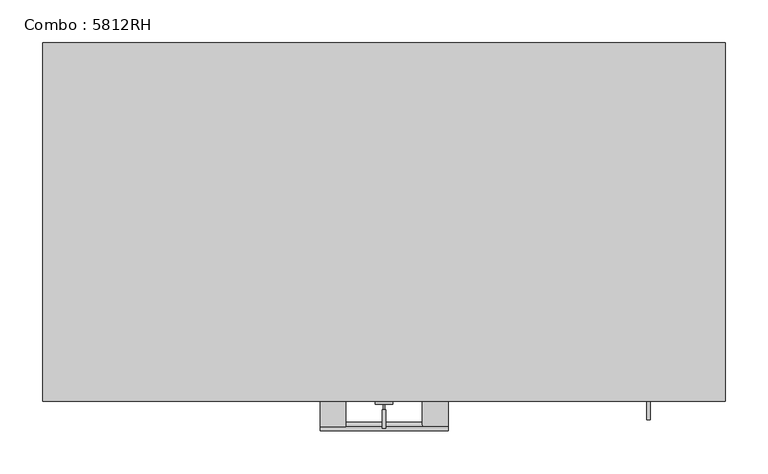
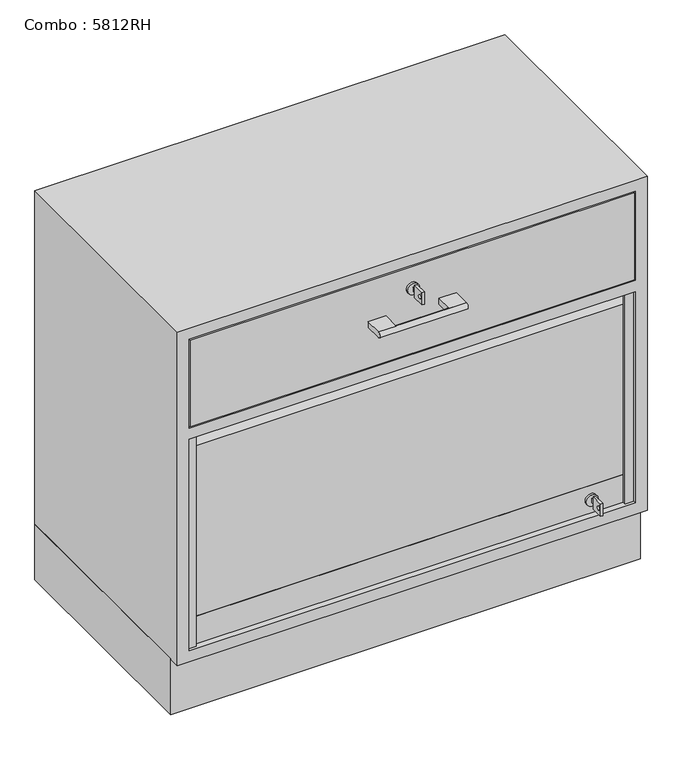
"""IFC4 building model written with IfcOpenShell, lengths in millimetres: furniture geometry, Combo : 5812RH."""

from ifc_helpers import new_model, si_unit, point, frame, frame_2d, origin, origin_with_axes, place, context, project, spatial, polyline, circle_curve, trimmed, segment, composite_curve, outline, extrude, faceted_brep, source, transform, mapped, element, save
from ifc_brep_helpers import plane_surface, cylinder_surface, advanced_brep


def combo_5812rh_d4502ce2(model_context):
    return source(origin(), model_context, "Body", "SolidModel", [
        extrude(outline(polyline([(-400.0, -400.0), (-400.0, 0.0), (400.0, 0.0), (400.0, -400.0), (-400.0, -400.0)])), origin_with_axes(), (0.0, 0.0, 1.0), 100.0),
        extrude(outline(composite_curve([segment(trimmed(circle_curve(frame_2d((640.0, 0.0)), 10.0), [point((640.0, -10.0))], [point((640.0, 10.0))], False, "CARTESIAN"), True, "CONTINUOUS"), segment(trimmed(circle_curve(frame_2d((640.0, 0.0)), 10.0), [point((640.0, 10.0))], [point((640.0, -10.0))], False, "CARTESIAN"), True, "CONTINUOUS")], self_intersect=False)), frame((0.0, -424.0, 0.0), z_axis=(0.0, 1.0, 0.0), x_axis=(0.0, 0.0, 1.0)), (0.0, 0.0, 1.0), 4.0),
        extrude(outline(polyline([(-452.0, 629.014113), (-452.0, 651.0), (-430.0, 651.0), (-430.0, 629.014113), (-452.0, 629.014113)]), holes=[composite_curve([segment(trimmed(circle_curve(frame_2d((-445.75, 640.0070565)), 3.2230706), [point((-445.75, 643.2301271))], [point((-445.75, 636.7839859))], True, "CARTESIAN"), True, "CONTINUOUS"), segment(trimmed(circle_curve(frame_2d((-445.75, 640.0070565)), 3.2230706), [point((-445.75, 636.7839859))], [point((-445.75, 643.2301271))], True, "CARTESIAN"), True, "CONTINUOUS")], self_intersect=False)]), frame((-2.0, 0.0, 0.0), z_axis=(1.0, 0.0, 0.0), x_axis=(0.0, 1.0, 0.0)), (0.0, 0.0, 1.0), 4.0416064),
        extrude(outline(polyline([(1.0416064, -430.0), (-1.0, -430.0), (-1.0, -424.0), (1.0416064, -424.0), (1.0416064, -430.0)])), frame((0.0, 0.0, 636.014113), z_axis=(0.0, 0.0, 1.0), x_axis=(1.0, 0.0, 0.0)), (0.0, 0.0, 1.0), 7.985887),
        advanced_brep(
        [(-75.0, -450.0, 605.0), (-75.0, -420.0, 605.0), (-75.0, -420.0, 595.0), (-75.0, -450.0, 595.0), (-45.0, -450.0, 595.0), (-45.0, -420.0, 595.0), (-45.0, -420.0, 605.0), (-45.0, -450.0, 605.0), (75.0, -450.0, 605.0), (75.0, -450.0, 595.0), (75.0, -420.0, 595.0), (75.0, -420.0, 605.0), (45.0, -450.0, 605.0), (45.0, -450.0, 595.0), (45.0, -420.0, 605.0), (45.0, -420.0, 595.0)],
        [
            (0, 1),
            (1, 2),
            (2, 3),
            (3, 0, circle_curve(frame((-75.0, -450.0, 600.0), z_axis=(-1.0, 0.0, 0.0), x_axis=(0.0, 0.0, -1.0)), 5.0)),
            (4, 5),
            (5, 6),
            (6, 7),
            (7, 4, circle_curve(frame((-45.0, -450.0, 600.0), z_axis=(-1.0, 0.0, 0.0), x_axis=(0.0, 0.0, -1.0)), 5.0)),
            (2, 5),
            (4, 3),
            (1, 6),
            (0, 7),
            (8, 9, circle_curve(frame((75.0, -450.0, 600.0), z_axis=(1.0, 0.0, 0.0), x_axis=(0.0, 0.0, -1.0)), 5.0)),
            (9, 10),
            (10, 11),
            (11, 8),
            (8, 12),
            (12, 7),
            (4, 13),
            (13, 9),
            (12, 13, circle_curve(frame((45.0, -450.0, 600.0), z_axis=(-1.0, 0.0, 0.0), x_axis=(0.0, 0.0, -1.0)), 5.0)),
            (12, 14),
            (14, 15),
            (15, 13),
            (15, 10),
            (14, 11),
        ],
        [
            plane_surface(frame((-75.0, -450.0, 606.0), z_axis=(-1.0, 0.0, 0.0), x_axis=(0.0, 0.0, 1.0))),
            plane_surface(frame((-45.0, -450.0, 606.0), z_axis=(1.0, 0.0, 0.0), x_axis=(0.0, 0.0, -1.0))),
            plane_surface(frame((-75.0, -420.0, 595.0), z_axis=(0.0, 0.0, -1.0), x_axis=(1.0, 0.0, 0.0))),
            plane_surface(frame((-75.0, -420.0, 605.0), z_axis=(0.0, 1.0, 0.0), x_axis=(1.0, 0.0, 0.0))),
            plane_surface(frame((-75.0, -450.0, 605.0), z_axis=(0.0, 0.0, 1.0), x_axis=(1.0, 0.0, 0.0))),
            plane_surface(frame((75.0, -450.0, 595.0), z_axis=(1.0, 0.0, 0.0), x_axis=(0.0, 1.0, 0.0))),
            cylinder_surface(frame((-75.0, -450.0, 600.0), z_axis=(1.0, 0.0, 0.0), x_axis=(0.0, 0.0, -1.0)), 5.0),
            plane_surface(frame((45.0, -538.7415577, 595.0), z_axis=(-1.0, 0.0, 0.0), x_axis=(0.0, -1.0, 0.0))),
            plane_surface(frame((75.0, -450.0, 595.0), z_axis=(0.0, 0.0, -1.0), x_axis=(-1.0, 0.0, 0.0))),
            plane_surface(frame((75.0, -420.0, 595.0), z_axis=(0.0, 1.0, 0.0), x_axis=(-1.0, 0.0, 0.0))),
            plane_surface(frame((75.0, -420.0, 605.0), z_axis=(0.0, 0.0, 1.0), x_axis=(-1.0, 0.0, 0.0))),
        ],
        [
            (0, [[1, 2, 3, 4]]),
            (1, [[5, 6, 7, 8]]),
            (2, [[-3, 9, -5, 10]]),
            (3, [[-2, 11, -6, -9]]),
            (4, [[-1, 12, -7, -11]]),
            (5, [[13, 14, 15, 16]]),
            (6, [[-13, 17, 18, -12, -4, -10, 19, 20]]),
            (6, [[-8, -18, 21, -19]]),
            (7, [[22, 23, 24, -21]]),
            (8, [[-14, -20, -24, 25]]),
            (9, [[-15, -25, -23, 26]]),
            (10, [[-16, -26, -22, -17]]),
        ],
    ),
        extrude(outline(composite_curve([segment(trimmed(circle_curve(frame_2d((145.0, 310.0)), 10.0), [point((145.0, 300.0))], [point((145.0, 320.0))], False, "CARTESIAN"), True, "CONTINUOUS"), segment(trimmed(circle_curve(frame_2d((145.0, 310.0)), 10.0), [point((145.0, 320.0))], [point((145.0, 300.0))], False, "CARTESIAN"), True, "CONTINUOUS")], self_intersect=False)), frame((0.0, -414.0, 0.0), z_axis=(0.0, 1.0, 0.0), x_axis=(0.0, 0.0, 1.0)), (0.0, 0.0, 1.0), 4.0),
        extrude(outline(polyline([(-442.0, 134.014113), (-442.0, 156.0), (-420.0, 156.0), (-420.0, 134.014113), (-442.0, 134.014113)]), holes=[composite_curve([segment(trimmed(circle_curve(frame_2d((-435.75, 145.0070565)), 3.2230706), [point((-435.75, 148.2301271))], [point((-435.75, 141.7839859))], True, "CARTESIAN"), True, "CONTINUOUS"), segment(trimmed(circle_curve(frame_2d((-435.75, 145.0070565)), 3.2230706), [point((-435.75, 141.7839859))], [point((-435.75, 148.2301271))], True, "CARTESIAN"), True, "CONTINUOUS")], self_intersect=False)]), frame((308.0, 0.0, 0.0), z_axis=(1.0, 0.0, 0.0), x_axis=(0.0, 1.0, 0.0)), (0.0, 0.0, 1.0), 4.0416064),
        extrude(outline(polyline([(311.0416064, -420.0), (309.0, -420.0), (309.0, -414.0), (311.0416064, -414.0), (311.0416064, -420.0)])), frame((0.0, 0.0, 141.014113), z_axis=(0.0, 0.0, 1.0), x_axis=(1.0, 0.0, 0.0)), (0.0, 0.0, 1.0), 7.985887),
        extrude(outline(polyline([(378.0, -400.0), (378.0, -420.0), (-378.0, -420.0), (-378.0, -400.0), (378.0, -400.0)])), frame((0.0, 0.0, 522.0), z_axis=(0.0, 0.0, 1.0), x_axis=(1.0, 0.0, 0.0)), (0.0, 0.0, 1.0), 156.0),
        extrude(outline(polyline([(380.0, -400.0), (380.0, -410.0), (-380.0, -410.0), (-380.0, -400.0), (380.0, -400.0)])), frame((0.0, 0.0, 120.0), z_axis=(0.0, 0.0, 1.0), x_axis=(1.0, 0.0, 0.0)), (0.0, 0.0, 1.0), 50.0),
        extrude(outline(polyline([(-365.0, -415.0), (-380.0, -415.0), (-380.0, -410.0), (-365.0, -410.0), (-365.0, -415.0)])), frame((0.0, 0.0, 120.0), z_axis=(0.0, 0.0, 1.0), x_axis=(1.0, 0.0, 0.0)), (0.0, 0.0, 1.0), 380.0),
        extrude(outline(polyline([(380.0, -415.0), (365.0, -415.0), (365.0, -410.0), (380.0, -410.0), (380.0, -415.0)])), frame((0.0, 0.0, 120.0), z_axis=(0.0, 0.0, 1.0), x_axis=(1.0, 0.0, 0.0)), (0.0, 0.0, 1.0), 380.0),
        extrude(outline(composite_curve([segment(trimmed(circle_curve(frame_2d((-390.0, 476.5)), 20.0), [point((-410.0, 476.5))], [point((-390.0, 496.5))], False, "CARTESIAN"), True, "CONTINUOUS"), segment(polyline([(-390.0, 496.5), (-355.0, 496.5), (-355.0, 486.5), (-390.0, 486.5)]), True, "CONTINUOUS"), segment(trimmed(circle_curve(frame_2d((-390.0, 476.5)), 10.0), [point((-390.0, 486.5))], [point((-400.0, 476.5))], True, "CARTESIAN"), True, "CONTINUOUS"), segment(polyline([(-400.0, 476.5), (-400.0, 170.0), (-410.0, 170.0), (-410.0, 476.5)]), True, "CONTINUOUS")], self_intersect=False)), frame((-380.0, 0.0, 0.0), z_axis=(1.0, 0.0, 0.0), x_axis=(0.0, 1.0, 0.0)), (0.0, 0.0, 1.0), 760.0),
        faceted_brep([(400.0, 0.0, 700.0), (-400.0, 0.0, 700.0), (-400.0, -420.0, 700.0), (400.0, -420.0, 700.0), (-400.0, 0.0, 100.0), (400.0, 0.0, 100.0), (400.0, -420.0, 100.0), (-400.0, -420.0, 100.0), (380.0, -420.0, 120.0), (-380.0, -420.0, 120.0), (-380.0, -420.0, 500.0), (380.0, -420.0, 500.0), (380.0, -420.0, 680.0), (380.0, -420.0, 520.0), (-380.0, -420.0, 520.0), (-380.0, -420.0, 680.0), (380.0, -20.0, 120.0), (-380.0, -20.0, 120.0), (380.0, -20.0, 680.0), (380.0, -20.0, 520.0), (380.0, -20.0, 500.0), (-380.0, -20.0, 500.0), (-380.0, -20.0, 680.0), (-380.0, -20.0, 520.0)], [[[0, 1, 2, 3]], [[4, 5, 6, 7]], [[1, 0, 5, 4]], [[2, 1, 4, 7]], [[3, 2, 7, 6], [8, 9, 10, 11], [12, 13, 14, 15]], [[0, 3, 6, 5]], [[16, 17, 9, 8]], [[18, 19, 13, 12]], [[16, 20, 21, 17]], [[20, 16, 8, 11]], [[21, 20, 11, 10]], [[17, 21, 10, 9]], [[19, 18, 22, 23]], [[22, 18, 12, 15]], [[23, 22, 15, 14]], [[19, 23, 14, 13]]]),
    ])


if __name__ == "__main__":
    model = new_model("IFC4")
    model_context = context("Model", 3, world=origin())
    ifc_project = project(units=[si_unit("LENGTHUNIT", "METRE", prefix="MILLI")], contexts=[model_context])
    site = spatial("IfcSite", under=ifc_project)
    building = spatial("IfcBuilding", under=site)
    placement = place(None, origin())
    combo_5812rh_shape = combo_5812rh_d4502ce2(model_context)
    element("IfcFurniture", 1, ObjectType="Combo : 5812RH", at=placement, inside=building, context=model_context, shape_type="MappedRepresentation", body=[
        mapped(combo_5812rh_shape, transform((0.0, 0.0, 0.0), x_axis=(1.0, 0.0, 0.0), y_axis=(0.0, 1.0, 0.0), z_axis=(0.0, 0.0, 1.0))),
    ])
    save(model, "model.ifc")
